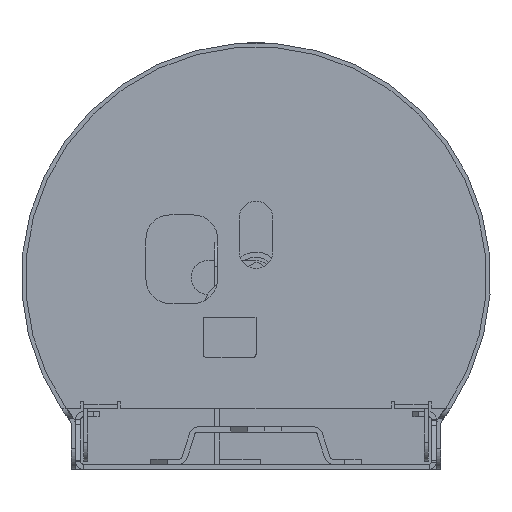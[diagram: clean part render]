
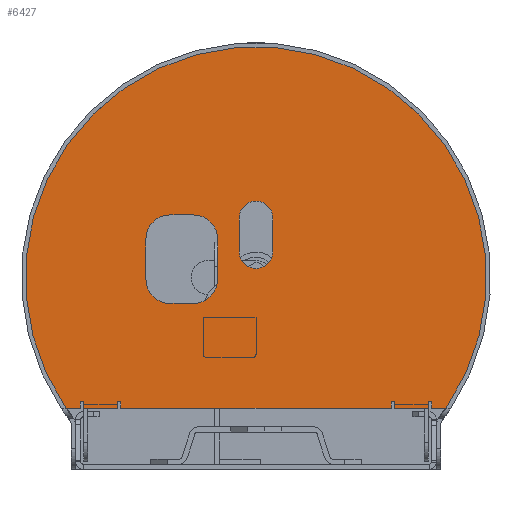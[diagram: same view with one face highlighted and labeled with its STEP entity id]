
A CAD part, front view. The second image highlights one B-rep face of the part: STEP entity #6427.
In plain terms, the highlighted planar face has unit normal (0, -1, 0).
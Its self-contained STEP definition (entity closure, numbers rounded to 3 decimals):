
#343=LINE('',#9594,#1040);
#350=LINE('',#9610,#1047);
#353=LINE('',#9617,#1050);
#360=LINE('',#9632,#1057);
#364=LINE('',#9641,#1061);
#390=LINE('',#9705,#1087);
#392=LINE('',#9711,#1089);
#396=LINE('',#9721,#1093);
#399=LINE('',#9729,#1096);
#402=LINE('',#9737,#1099);
#404=LINE('',#9743,#1101);
#405=LINE('',#9746,#1102);
#406=LINE('',#9748,#1103);
#407=LINE('',#9750,#1104);
#408=LINE('',#9751,#1105);
#409=LINE('',#9753,#1106);
#410=LINE('',#9755,#1107);
#411=LINE('',#9756,#1108);
#412=LINE('',#9758,#1109);
#413=LINE('',#9760,#1110);
#414=LINE('',#9761,#1111);
#415=LINE('',#9763,#1112);
#416=LINE('',#9764,#1113);
#1040=VECTOR('',#7823,10.);
#1047=VECTOR('',#7834,4.151);
#1050=VECTOR('',#7839,10.);
#1057=VECTOR('',#7850,4.151);
#1061=VECTOR('',#7856,80.1);
#1087=VECTOR('',#7900,10.);
#1089=VECTOR('',#7908,10.);
#1093=VECTOR('',#7918,12.);
#1096=VECTOR('',#7927,7.);
#1099=VECTOR('',#7936,12.);
#1101=VECTOR('',#7944,7.);
#1102=VECTOR('',#7947,2.);
#1103=VECTOR('',#7948,2.);
#1104=VECTOR('',#7949,1.);
#1105=VECTOR('',#7950,2.);
#1106=VECTOR('',#7951,2.);
#1107=VECTOR('',#7952,1.);
#1108=VECTOR('',#7953,2.);
#1109=VECTOR('',#7954,2.);
#1110=VECTOR('',#7955,1.);
#1111=VECTOR('',#7956,2.);
#1112=VECTOR('',#7957,2.);
#1113=VECTOR('',#7958,1.);
#1557=PLANE('',#6853);
#1710=FACE_BOUND('',#2241,.T.);
#1711=FACE_BOUND('',#2242,.T.);
#1885=FACE_OUTER_BOUND('',#2240,.T.);
#2240=EDGE_LOOP('',(#4891,#4892,#4893,#4894,#4895,#4896,#4897,#4898,#4899,
#4900,#4901,#4902,#4903,#4904,#4905,#4906,#4907,#4908));
#2241=EDGE_LOOP('',(#4909,#4910,#4911,#4912,#4913,#4914,#4915,#4916));
#2242=EDGE_LOOP('',(#4917,#4918,#4919,#4920));
#2506=CIRCLE('',#6817,68.299);
#2509=CIRCLE('',#6821,5.);
#2519=CIRCLE('',#6839,5.);
#2520=CIRCLE('',#6842,7.1);
#2521=CIRCLE('',#6845,7.1);
#2522=CIRCLE('',#6848,7.1);
#2523=CIRCLE('',#6851,7.1);
#2828=VERTEX_POINT('',#9574);
#2829=VERTEX_POINT('',#9575);
#2834=VERTEX_POINT('',#9586);
#2835=VERTEX_POINT('',#9588);
#2836=VERTEX_POINT('',#9592);
#2837=VERTEX_POINT('',#9593);
#2843=VERTEX_POINT('',#9607);
#2846=VERTEX_POINT('',#9614);
#2847=VERTEX_POINT('',#9616);
#2852=VERTEX_POINT('',#9628);
#2854=VERTEX_POINT('',#9634);
#2857=VERTEX_POINT('',#9639);
#2886=VERTEX_POINT('',#9703);
#2887=VERTEX_POINT('',#9707);
#2888=VERTEX_POINT('',#9713);
#2889=VERTEX_POINT('',#9715);
#2890=VERTEX_POINT('',#9719);
#2891=VERTEX_POINT('',#9723);
#2892=VERTEX_POINT('',#9727);
#2893=VERTEX_POINT('',#9731);
#2894=VERTEX_POINT('',#9735);
#2895=VERTEX_POINT('',#9739);
#2896=VERTEX_POINT('',#9745);
#2897=VERTEX_POINT('',#9747);
#2898=VERTEX_POINT('',#9749);
#2899=VERTEX_POINT('',#9752);
#2900=VERTEX_POINT('',#9754);
#2901=VERTEX_POINT('',#9757);
#2902=VERTEX_POINT('',#9759);
#2903=VERTEX_POINT('',#9762);
#3538=EDGE_CURVE('',#2828,#2829,#2506,.T.);
#3544=EDGE_CURVE('',#2834,#2835,#2509,.T.);
#3546=EDGE_CURVE('',#2836,#2837,#343,.T.);
#3554=EDGE_CURVE('',#2829,#2843,#350,.T.);
#3557=EDGE_CURVE('',#2847,#2846,#353,.T.);
#3565=EDGE_CURVE('',#2852,#2828,#360,.T.);
#3569=EDGE_CURVE('',#2854,#2857,#364,.T.);
#3602=EDGE_CURVE('',#2886,#2834,#390,.T.);
#3604=EDGE_CURVE('',#2887,#2886,#2519,.T.);
#3605=EDGE_CURVE('',#2835,#2887,#392,.T.);
#3607=EDGE_CURVE('',#2888,#2889,#2520,.T.);
#3610=EDGE_CURVE('',#2890,#2888,#396,.T.);
#3612=EDGE_CURVE('',#2891,#2890,#2521,.T.);
#3614=EDGE_CURVE('',#2892,#2891,#399,.T.);
#3616=EDGE_CURVE('',#2893,#2892,#2522,.T.);
#3618=EDGE_CURVE('',#2894,#2893,#402,.T.);
#3620=EDGE_CURVE('',#2895,#2894,#2523,.T.);
#3621=EDGE_CURVE('',#2889,#2895,#404,.T.);
#3622=EDGE_CURVE('',#2836,#2896,#405,.T.);
#3623=EDGE_CURVE('',#2897,#2837,#406,.T.);
#3624=EDGE_CURVE('',#2898,#2897,#407,.T.);
#3625=EDGE_CURVE('',#2854,#2898,#408,.T.);
#3626=EDGE_CURVE('',#2899,#2857,#409,.T.);
#3627=EDGE_CURVE('',#2900,#2899,#410,.T.);
#3628=EDGE_CURVE('',#2847,#2900,#411,.T.);
#3629=EDGE_CURVE('',#2901,#2846,#412,.T.);
#3630=EDGE_CURVE('',#2902,#2901,#413,.T.);
#3631=EDGE_CURVE('',#2852,#2902,#414,.T.);
#3632=EDGE_CURVE('',#2903,#2843,#415,.T.);
#3633=EDGE_CURVE('',#2896,#2903,#416,.T.);
#4891=ORIENTED_EDGE('',*,*,#3622,.F.);
#4892=ORIENTED_EDGE('',*,*,#3546,.T.);
#4893=ORIENTED_EDGE('',*,*,#3623,.F.);
#4894=ORIENTED_EDGE('',*,*,#3624,.F.);
#4895=ORIENTED_EDGE('',*,*,#3625,.F.);
#4896=ORIENTED_EDGE('',*,*,#3569,.T.);
#4897=ORIENTED_EDGE('',*,*,#3626,.F.);
#4898=ORIENTED_EDGE('',*,*,#3627,.F.);
#4899=ORIENTED_EDGE('',*,*,#3628,.F.);
#4900=ORIENTED_EDGE('',*,*,#3557,.T.);
#4901=ORIENTED_EDGE('',*,*,#3629,.F.);
#4902=ORIENTED_EDGE('',*,*,#3630,.F.);
#4903=ORIENTED_EDGE('',*,*,#3631,.F.);
#4904=ORIENTED_EDGE('',*,*,#3565,.T.);
#4905=ORIENTED_EDGE('',*,*,#3538,.T.);
#4906=ORIENTED_EDGE('',*,*,#3554,.T.);
#4907=ORIENTED_EDGE('',*,*,#3632,.F.);
#4908=ORIENTED_EDGE('',*,*,#3633,.F.);
#4909=ORIENTED_EDGE('',*,*,#3620,.F.);
#4910=ORIENTED_EDGE('',*,*,#3621,.F.);
#4911=ORIENTED_EDGE('',*,*,#3607,.F.);
#4912=ORIENTED_EDGE('',*,*,#3610,.F.);
#4913=ORIENTED_EDGE('',*,*,#3612,.F.);
#4914=ORIENTED_EDGE('',*,*,#3614,.F.);
#4915=ORIENTED_EDGE('',*,*,#3616,.F.);
#4916=ORIENTED_EDGE('',*,*,#3618,.F.);
#4917=ORIENTED_EDGE('',*,*,#3604,.F.);
#4918=ORIENTED_EDGE('',*,*,#3605,.F.);
#4919=ORIENTED_EDGE('',*,*,#3544,.F.);
#4920=ORIENTED_EDGE('',*,*,#3602,.F.);
#6427=ADVANCED_FACE('',(#1885,#1710,#1711),#1557,.T.);
#6817=AXIS2_PLACEMENT_3D('',#9576,#7807,#7808);
#6821=AXIS2_PLACEMENT_3D('',#9589,#7818,#7819);
#6839=AXIS2_PLACEMENT_3D('',#9709,#7904,#7905);
#6842=AXIS2_PLACEMENT_3D('',#9716,#7912,#7913);
#6845=AXIS2_PLACEMENT_3D('',#9725,#7922,#7923);
#6848=AXIS2_PLACEMENT_3D('',#9733,#7931,#7932);
#6851=AXIS2_PLACEMENT_3D('',#9741,#7940,#7941);
#6853=AXIS2_PLACEMENT_3D('',#9744,#7945,#7946);
#7807=DIRECTION('center_axis',(0.,-1.,0.));
#7808=DIRECTION('ref_axis',(0.,0.,-1.));
#7818=DIRECTION('center_axis',(0.,-1.,0.));
#7819=DIRECTION('ref_axis',(0.,0.,-1.));
#7823=DIRECTION('',(1.,0.,0.));
#7834=DIRECTION('',(1.,0.,0.));
#7839=DIRECTION('',(1.,0.,0.));
#7850=DIRECTION('',(1.,0.,0.));
#7856=DIRECTION('',(1.,0.,0.));
#7900=DIRECTION('',(0.,0.,-1.));
#7904=DIRECTION('center_axis',(0.,-1.,0.));
#7905=DIRECTION('ref_axis',(0.,0.,-1.));
#7908=DIRECTION('',(0.,0.,1.));
#7912=DIRECTION('center_axis',(0.,-1.,0.));
#7913=DIRECTION('ref_axis',(0.,0.,-1.));
#7918=DIRECTION('',(0.,0.,-1.));
#7922=DIRECTION('center_axis',(0.,-1.,0.));
#7923=DIRECTION('ref_axis',(0.,0.,-1.));
#7927=DIRECTION('',(-1.,0.,0.));
#7931=DIRECTION('center_axis',(0.,-1.,0.));
#7932=DIRECTION('ref_axis',(0.,0.,-1.));
#7936=DIRECTION('',(0.,0.,1.));
#7940=DIRECTION('center_axis',(0.,-1.,0.));
#7941=DIRECTION('ref_axis',(0.,0.,-1.));
#7944=DIRECTION('',(1.,0.,0.));
#7945=DIRECTION('center_axis',(0.,-1.,0.));
#7946=DIRECTION('ref_axis',(0.,0.,-1.));
#7947=DIRECTION('',(0.,0.,1.));
#7948=DIRECTION('',(0.,0.,-1.));
#7949=DIRECTION('',(-1.,0.,0.));
#7950=DIRECTION('',(0.,0.,1.));
#7951=DIRECTION('',(0.,0.,-1.));
#7952=DIRECTION('',(-1.,0.,0.));
#7953=DIRECTION('',(0.,0.,1.));
#7954=DIRECTION('',(0.,0.,-1.));
#7955=DIRECTION('',(-1.,0.,0.));
#7956=DIRECTION('',(0.,0.,1.));
#7957=DIRECTION('',(0.,0.,-1.));
#7958=DIRECTION('',(-1.,0.,0.));
#9574=CARTESIAN_POINT('',(56.201,0.2,16.5));
#9575=CARTESIAN_POINT('',(-56.201,0.2,16.5));
#9576=CARTESIAN_POINT('Origin',(0.,0.2,
55.31));
#9586=CARTESIAN_POINT('',(-5.,0.2,62.92));
#9588=CARTESIAN_POINT('',(5.,0.2,62.92));
#9589=CARTESIAN_POINT('Origin',(0.,0.2,
62.92));
#9592=CARTESIAN_POINT('',(-51.05,0.2,16.5));
#9593=CARTESIAN_POINT('',(-41.05,0.2,16.5));
#9594=CARTESIAN_POINT('',(-56.202,0.2,16.5));
#9607=CARTESIAN_POINT('',(-52.05,0.2,16.5));
#9610=CARTESIAN_POINT('',(-56.202,0.2,16.5));
#9614=CARTESIAN_POINT('',(51.05,0.2,16.5));
#9616=CARTESIAN_POINT('',(41.05,0.2,16.5));
#9617=CARTESIAN_POINT('',(-56.202,0.2,16.5));
#9628=CARTESIAN_POINT('',(52.05,0.2,16.5));
#9632=CARTESIAN_POINT('',(-56.202,0.2,16.5));
#9634=CARTESIAN_POINT('',(-40.05,0.2,16.5));
#9639=CARTESIAN_POINT('',(40.05,0.2,16.5));
#9641=CARTESIAN_POINT('',(-56.202,0.2,16.5));
#9703=CARTESIAN_POINT('',(-5.,0.2,72.92));
#9705=CARTESIAN_POINT('',(-5.,0.2,72.92));
#9707=CARTESIAN_POINT('',(5.,0.2,72.92));
#9709=CARTESIAN_POINT('Origin',(0.,0.2,
72.92));
#9711=CARTESIAN_POINT('',(5.,0.2,72.92));
#9713=CARTESIAN_POINT('',(-32.6,0.2,54.72));
#9715=CARTESIAN_POINT('',(-25.5,0.2,47.62));
#9716=CARTESIAN_POINT('Origin',(-25.5,0.2,54.72));
#9719=CARTESIAN_POINT('',(-32.6,0.2,66.72));
#9721=CARTESIAN_POINT('',(-32.6,0.2,66.72));
#9723=CARTESIAN_POINT('',(-25.5,0.2,73.82));
#9725=CARTESIAN_POINT('Origin',(-25.5,0.2,66.72));
#9727=CARTESIAN_POINT('',(-18.5,0.2,73.82));
#9729=CARTESIAN_POINT('',(-18.5,0.2,73.82));
#9731=CARTESIAN_POINT('',(-11.4,0.2,66.72));
#9733=CARTESIAN_POINT('Origin',(-18.5,0.2,66.72));
#9735=CARTESIAN_POINT('',(-11.4,0.2,54.72));
#9737=CARTESIAN_POINT('',(-11.4,0.2,54.72));
#9739=CARTESIAN_POINT('',(-18.5,0.2,47.62));
#9741=CARTESIAN_POINT('Origin',(-18.5,0.2,54.72));
#9743=CARTESIAN_POINT('',(-25.5,0.2,47.62));
#9744=CARTESIAN_POINT('Origin',(0.,0.2,
55.31));
#9745=CARTESIAN_POINT('',(-51.05,0.2,18.5));
#9746=CARTESIAN_POINT('',(-51.05,0.2,55.31));
#9747=CARTESIAN_POINT('',(-41.05,0.2,18.5));
#9748=CARTESIAN_POINT('',(-41.05,0.2,55.31));
#9749=CARTESIAN_POINT('',(-40.05,0.2,18.5));
#9750=CARTESIAN_POINT('',(0.,0.2,18.5));
#9751=CARTESIAN_POINT('',(-40.05,0.2,55.31));
#9752=CARTESIAN_POINT('',(40.05,0.2,18.5));
#9753=CARTESIAN_POINT('',(40.05,0.2,55.31));
#9754=CARTESIAN_POINT('',(41.05,0.2,18.5));
#9755=CARTESIAN_POINT('',(0.,0.2,18.5));
#9756=CARTESIAN_POINT('',(41.05,0.2,55.31));
#9757=CARTESIAN_POINT('',(51.05,0.2,18.5));
#9758=CARTESIAN_POINT('',(51.05,0.2,55.31));
#9759=CARTESIAN_POINT('',(52.05,0.2,18.5));
#9760=CARTESIAN_POINT('',(0.,0.2,18.5));
#9761=CARTESIAN_POINT('',(52.05,0.2,55.31));
#9762=CARTESIAN_POINT('',(-52.05,0.2,18.5));
#9763=CARTESIAN_POINT('',(-52.05,0.2,55.31));
#9764=CARTESIAN_POINT('',(0.,0.2,18.5));
